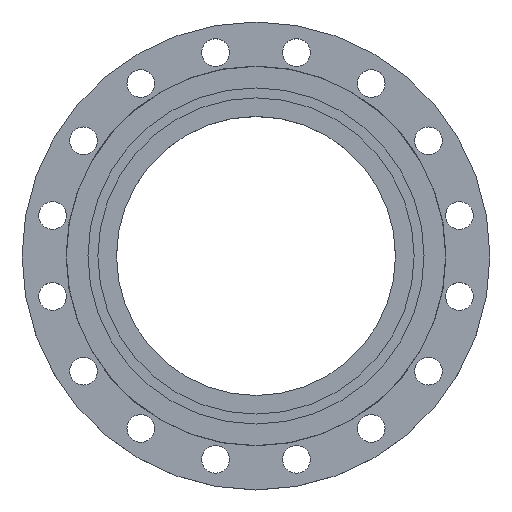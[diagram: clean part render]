
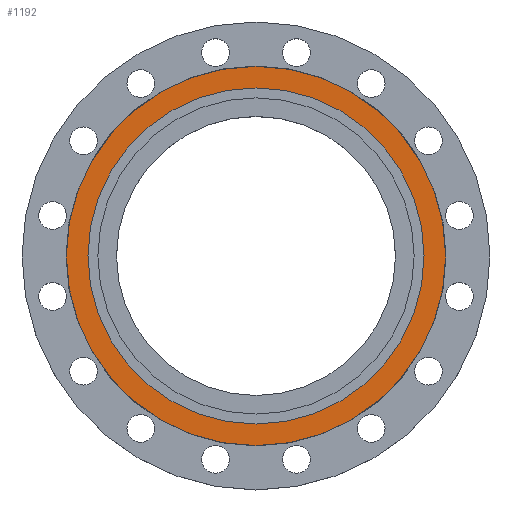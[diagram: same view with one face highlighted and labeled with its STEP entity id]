
A CAD part, top view. The second image highlights one B-rep face of the part: STEP entity #1192.
In plain terms, the highlighted planar face has unit normal (0, 0, 1).
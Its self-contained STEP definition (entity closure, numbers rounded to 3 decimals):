
#45 = CIRCLE ( 'NONE', #49, 267.5 ) ;
#49 = AXIS2_PLACEMENT_3D ( 'NONE', #457, #456, #455 ) ;
#68 = CARTESIAN_POINT ( 'NONE',  ( 237., 0., 0. ) ) ;
#87 = CARTESIAN_POINT ( 'NONE',  ( -267.5, 0., 0. ) ) ;
#119 = DIRECTION ( 'NONE',  ( 1., 0., 0. ) ) ;
#120 = DIRECTION ( 'NONE',  ( 0., 0., 1. ) ) ;
#121 = CARTESIAN_POINT ( 'NONE',  ( 0., 0., 0. ) ) ;
#122 = PLANE ( 'NONE',  #1089 ) ;
#123 = FACE_BOUND ( 'NONE', #801, .T. ) ;
#124 = FACE_OUTER_BOUND ( 'NONE', #1313, .T. ) ;
#350 = AXIS2_PLACEMENT_3D ( 'NONE', #1153, #1152, #1149 ) ;
#355 = CIRCLE ( 'NONE', #350, 237. ) ;
#422 = EDGE_CURVE ( 'NONE', #1226, #1342, #1762, .T. ) ;
#455 = DIRECTION ( 'NONE',  ( -1., 0., 0. ) ) ;
#456 = DIRECTION ( 'NONE',  ( 0., 0., -1. ) ) ;
#457 = CARTESIAN_POINT ( 'NONE',  ( 0., 0., 0. ) ) ;
#555 = EDGE_CURVE ( 'NONE', #1389, #1213, #45, .T. ) ;
#593 = DIRECTION ( 'NONE',  ( -1., 0., 0. ) ) ;
#594 = DIRECTION ( 'NONE',  ( 0., 0., -1. ) ) ;
#596 = CARTESIAN_POINT ( 'NONE',  ( 0., 0., 0. ) ) ;
#801 = EDGE_LOOP ( 'NONE', ( #1019, #1025 ) ) ;
#956 = DIRECTION ( 'NONE',  ( -1., 0., 0. ) ) ;
#961 = DIRECTION ( 'NONE',  ( 0., 0., -1. ) ) ;
#967 = CARTESIAN_POINT ( 'NONE',  ( 0., 0., 0. ) ) ;
#971 = CARTESIAN_POINT ( 'NONE',  ( 267.5, 0., 0. ) ) ;
#980 = ORIENTED_EDGE ( 'NONE', *, *, #1390, .F. ) ;
#1019 = ORIENTED_EDGE ( 'NONE', *, *, #1353, .T. ) ;
#1025 = ORIENTED_EDGE ( 'NONE', *, *, #422, .T. ) ;
#1037 = ORIENTED_EDGE ( 'NONE', *, *, #555, .F. ) ;
#1089 = AXIS2_PLACEMENT_3D ( 'NONE', #121, #120, #119 ) ;
#1149 = DIRECTION ( 'NONE',  ( -1., 0., 0. ) ) ;
#1152 = DIRECTION ( 'NONE',  ( 0., 0., -1. ) ) ;
#1153 = CARTESIAN_POINT ( 'NONE',  ( 0., 0., 0. ) ) ;
#1187 = CARTESIAN_POINT ( 'NONE',  ( -237., 0., 0. ) ) ;
#1192 = ADVANCED_FACE ( 'NONE', ( #124, #123 ), #122, .T. ) ;
#1213 = VERTEX_POINT ( 'NONE', #87 ) ;
#1226 = VERTEX_POINT ( 'NONE', #68 ) ;
#1313 = EDGE_LOOP ( 'NONE', ( #980, #1037 ) ) ;
#1342 = VERTEX_POINT ( 'NONE', #1187 ) ;
#1353 = EDGE_CURVE ( 'NONE', #1342, #1226, #355, .T. ) ;
#1389 = VERTEX_POINT ( 'NONE', #971 ) ;
#1390 = EDGE_CURVE ( 'NONE', #1213, #1389, #1487, .T. ) ;
#1483 = AXIS2_PLACEMENT_3D ( 'NONE', #967, #961, #956 ) ;
#1487 = CIRCLE ( 'NONE', #1483, 267.5 ) ;
#1749 = AXIS2_PLACEMENT_3D ( 'NONE', #596, #594, #593 ) ;
#1762 = CIRCLE ( 'NONE', #1749, 237. ) ;
